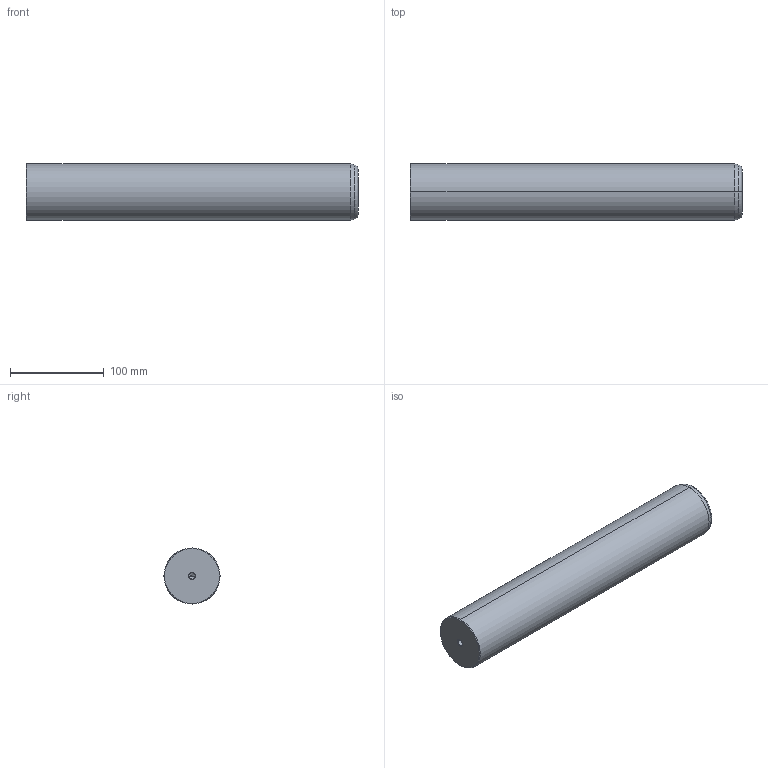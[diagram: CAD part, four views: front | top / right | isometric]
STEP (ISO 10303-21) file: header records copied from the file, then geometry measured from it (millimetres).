
FILE_DESCRIPTION(('CATIA V5 STEP Exchange'),'2;1');
FILE_NAME('C:\Users\Utente\Desktop\IO LAVORO\3D X SITO CF\X SITO\720\720-60x355.stp','2020-12-30T21:33:08+00:00',('none'),('none'),'CATIA Version 5 Release 20 GA (IN-10)','CATIA V5 STEP AP203','none');
FILE_SCHEMA(('CONFIG_CONTROL_DESIGN'));
Length unit declared in the file: millimetre
Products named in the file (1): 720-60x355
Bounding box: 355 x 60 x 60 mm (x, y, z)
Volume: 999903.9 mm3; surface area: 72891 mm2
Topology: 1 solids, 1 shells, 22 faces, 62 edges, 40 vertices
Faces by surface type: cone 12, cylinder 6, plane 2, torus 2
Entity records: 806 total; most frequent: CARTESIAN_POINT 229, ORIENTED_EDGE 116, DIRECTION 93, EDGE_CURVE 58, AXIS2_PLACEMENT_3D 54, VERTEX_POINT 40, CIRCLE 31, EDGE_LOOP 24
